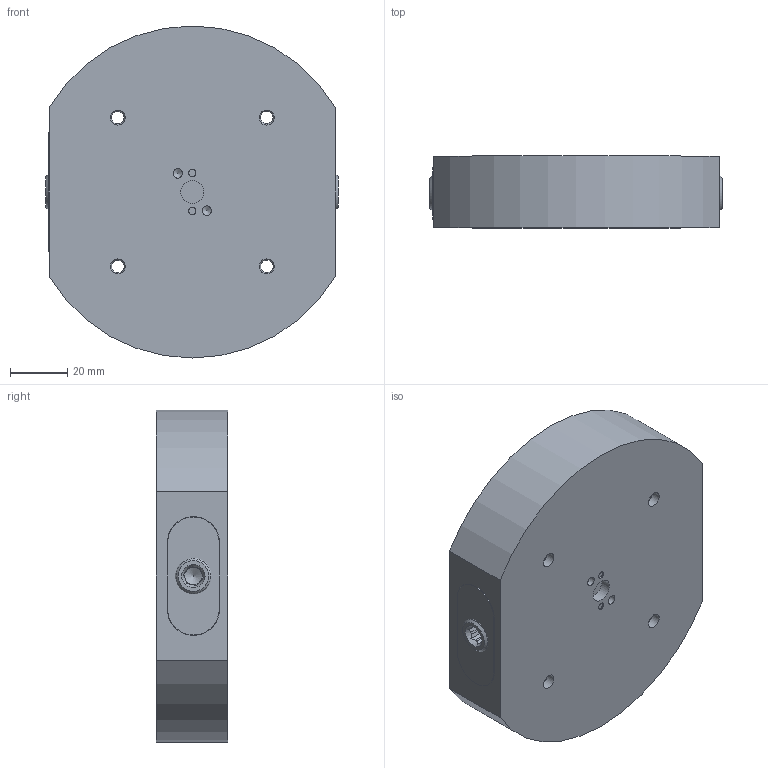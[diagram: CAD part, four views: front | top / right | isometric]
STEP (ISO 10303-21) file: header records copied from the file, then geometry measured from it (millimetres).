
FILE_DESCRIPTION (( 'STEP AP214' ), '1' );
FILE_NAME ('RL52A-4_WEBSITE.STEP', '2025-08-11T12:02:12', ( '' ), ( '' ), 'SwSTEP 2.0', 'SolidWorks 2025', '' );
FILE_SCHEMA (( 'AUTOMOTIVE_DESIGN' ));
Length unit declared in the file: inch
Products named in the file (11): D_92981A144_ALLOY STEEL SHOULDER SCREW_WEBSITE_92981A144; RL52A-4_WEBSITE; D_RL52-14A_WEBSITE; D_RL52-2R_WEBSITE; D_RL52-2L_WEBSITE; D_RL52-PY_WEBSITE; D_HW22X16.DB_WEBSITE; 9750K720_PLASTIC ROUND PLUG_WEBSITE_9750K72; 9452K77-Truck-O-Ring_WEBSITE; 9452K168-Base-O-Ring_WEBSITE; D_RL52-3_WEBSITE
Assembly tree (18 placements, depth 2):
  RL52A-4_WEBSITE
    D_RL52-14A_WEBSITE
    D_RL52-2L_WEBSITE
    D_RL52-2R_WEBSITE
    D_RL52-3_WEBSITE
    D_HW22X16.DB_WEBSITE  x4
    D_92981A144_ALLOY STEEL SHOULDER SCREW_WEBSITE_92981A144  x2
    D_RL52-PY_WEBSITE  x2
    9452K168-Base-O-Ring_WEBSITE  x4
    9452K77-Truck-O-Ring_WEBSITE  x2
  9750K720_PLASTIC ROUND PLUG_WEBSITE_9750K72
Bounding box: 102.11 x 25 x 116 mm (x, y, z)
Volume: 222161.8 mm3; surface area: 61212.5 mm2
Topology: 20 solids, 20 shells, 296 faces, 646 edges, 405 vertices
Faces by surface type: plane 173, cylinder 91, cone 24, torus 6, bspline 2
Full cylindrical faces by diameter (mm): 0.254 x2, 2.5 x2, 3 x2, 3.3 x2, 4 x2, 4.089 x2, 5.182 x4, 6 x2, 6.147 x2, 7 x2, 8.026 x1, 8.89 x1, 9.144 x4, 9.525 x4, 12 x2, 13.35 x2, 13.754 x2, 15.215 x4, 15.24 x2, 15.291 x4, 15.875 x1, 16.002 x4, 16.03 x4, 21.981 x4, 21.994 x4, 22.047 x4
Entity records: 8407 total; most frequent: CARTESIAN_POINT 2370, DIRECTION 1118, ORIENTED_EDGE 892, AXIS2_PLACEMENT_3D 456, EDGE_CURVE 446, EDGE_LOOP 366, VERTEX_POINT 318, FACE_OUTER_BOUND 296
